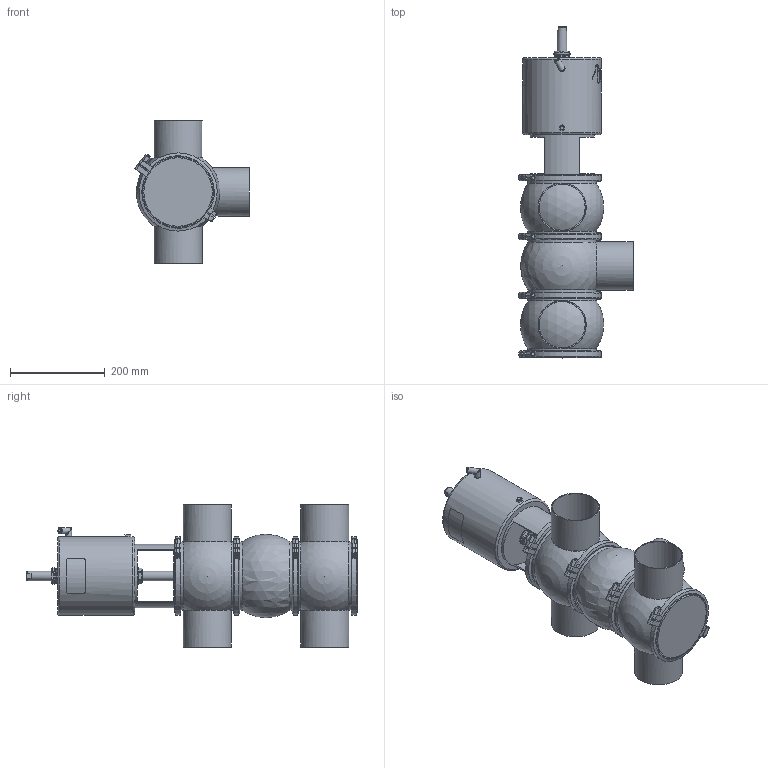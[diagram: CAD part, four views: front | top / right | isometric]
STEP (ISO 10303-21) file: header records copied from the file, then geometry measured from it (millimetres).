
FILE_DESCRIPTION (( 'STEP AP214' ), '1' );
FILE_NAME ('INNOVA L W W OD 4 T4 AS NC_10.241.16.0028.STEP', '2024-08-07T07:09:46', ( '' ), ( '' ), 'SwSTEP 2.0', 'SolidWorks 2023', '' );
FILE_SCHEMA (( 'AUTOMOTIVE_DESIGN' ));
Length unit declared in the file: millimetre
Products named in the file (7): INNOVA L W W OD 4 T4 AS NC_10.241.16.0028; 10.240.15.0007_OD 4"; 10.241.15.0001_DIN 100; 10.240.15.0010_DN 100; 10.240.15.0001_DN 100; 10.240.15.0006_OD 4"; 10.240.15.0014_T4 AS P180
Assembly tree (10 placements, depth 2):
  INNOVA L W W OD 4 T4 AS NC_10.241.16.0028
    10.240.15.0007_OD 4"  x2
    10.240.15.0006_OD 4"
    10.240.15.0010_DN 100
    10.240.15.0014_T4 AS P180
    10.240.15.0001_DN 100  x4
    10.241.15.0001_DIN 100
Bounding box: 241.26 x 700.5 x 300 mm (x, y, z)
Volume: 12147877.6 mm3; surface area: 954005.2 mm2
Topology: 11 solids, 11 shells, 542 faces, 1448 edges, 943 vertices
Faces by surface type: plane 262, cylinder 140, bspline 80, cone 46, sphere 10, torus 4
Full cylindrical faces by diameter (mm): 6.15 x1, 8 x9, 8.5 x1, 10.5 x1, 12.5 x3, 16 x1, 20 x2, 31 x1, 34.5 x2, 36.5 x1, 97.4 x5, 101.6 x5, 135 x1, 144.5 x7, 156.5 x8, 166 x1
Entity records: 20876 total; most frequent: CARTESIAN_POINT 11386, ORIENTED_EDGE 1646, DIRECTION 1287, EDGE_CURVE 823, VERTEX_POINT 568, AXIS2_PLACEMENT_3D 499, EDGE_LOOP 427, FACE_OUTER_BOUND 385
